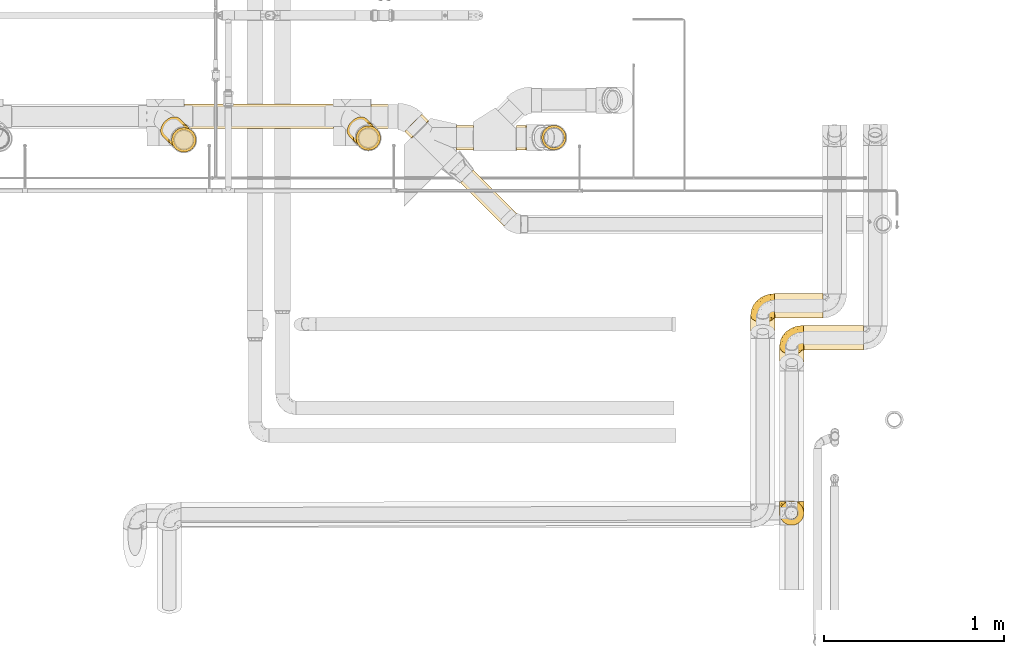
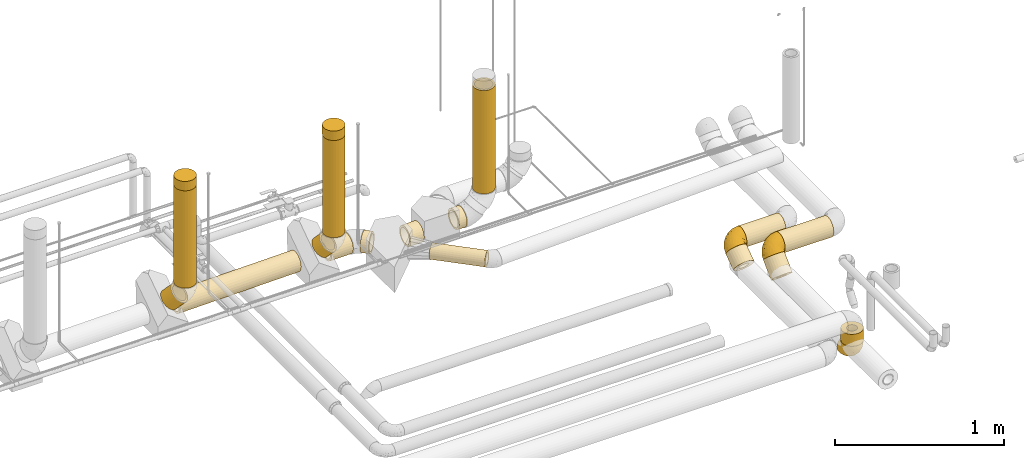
# One storey, part 3 of 156: 21 coverings.
"""IFC2X3 building model written with IfcOpenShell, lengths in millimetres."""

from ifc_helpers import new_model, entity, si_unit, converted_unit, derived_unit, direction, frame, origin_with_axes, origin_2d_with_axis, place, context, subcontext, project, spatial, hollow_circle, extrude, open_shell, surface_model, source, transform, mapped, element, save


model = new_model("IFC2X3")

# Units and contexts
model_context = context("Model", 3, precision=0.01, world=frame((0.0, 4.29681676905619e-09, 0.0)), true_north=direction((4.01073788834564e-13, 1.0)))
plan_context = context("Plan", 3, precision=0.01, world=frame((0.0, 4.29681676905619e-09, 0.0)), true_north=direction((4.01073788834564e-13, 1.0)))
body_context = subcontext(model_context, "Body", "Model", "MODEL_VIEW")
ifc_project = project(units=[converted_unit("PLANEANGLEUNIT", "DEGREE", entity("IfcPositiveLengthMeasure", 0.0174532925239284), si_unit("PLANEANGLEUNIT", "RADIAN"), dimensions=[0, 0, 0, 0, 0, 0, 0]), si_unit("AREAUNIT", "SQUARE_METRE"), si_unit("LENGTHUNIT", "METRE", prefix="MILLI"), si_unit("MASSUNIT", "GRAM", prefix="KILO"), si_unit("POWERUNIT", "WATT"), si_unit("PRESSUREUNIT", "PASCAL", prefix="KILO"), si_unit("FORCEUNIT", "NEWTON", prefix="KILO"), si_unit("ELECTRICVOLTAGEUNIT", "VOLT"), si_unit("ELECTRICCURRENTUNIT", "AMPERE"), si_unit("THERMODYNAMICTEMPERATUREUNIT", "DEGREE_CELSIUS"), si_unit("TIMEUNIT", "SECOND"), si_unit("VOLUMEUNIT", "CUBIC_METRE"), derived_unit("LINEARVELOCITYUNIT", [(si_unit("LENGTHUNIT", "METRE"), 1), (si_unit("TIMEUNIT", "SECOND"), -1)]), derived_unit("VOLUMETRICFLOWRATEUNIT", [(si_unit("VOLUMEUNIT", "CUBIC_METRE"), 1), (si_unit("TIMEUNIT", "SECOND"), -1)]), derived_unit("THERMALTRANSMITTANCEUNIT", [(si_unit("POWERUNIT", "WATT"), 1), (si_unit("THERMODYNAMICTEMPERATUREUNIT", "KELVIN"), -1), (si_unit("AREAUNIT", "SQUARE_METRE"), -1)]), derived_unit("SOUNDPRESSUREUNIT", [(si_unit("PRESSUREUNIT", "PASCAL"), 1)])], contexts=[model_context, plan_context])

# Site, building, storey
site_placement = place(None, frame((0.0, -4.29681676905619e-09, 0.0), z_axis=(0.0, 0.0, 1.0), x_axis=(1.0, 0.0, 0.0)))
site = spatial("IfcSite", under=ifc_project, at=site_placement, CompositionType="ELEMENT")
building_placement = place(site_placement, frame((0.0, 4.29681676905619e-09, 0.0), z_axis=(0.0, 0.0, 1.0), x_axis=(1.0, 0.0, 0.0)))
building = spatial("IfcBuilding", under=site, at=building_placement, Name="mc-building", CompositionType="ELEMENT")
storey_placement = place(building_placement, frame((0.0, 0.0, 205200.0), z_axis=(0.0, 0.0, 1.0), x_axis=(1.0, 0.0, 0.0)))
storey = spatial("IfcBuildingStorey", under=building, at=storey_placement, Name="Nivå D + 1,2 m", CompositionType="ELEMENT", Elevation=205200.0)

# Coverings
shared_shape_1 = source(origin_with_axes(), body_context, "Body", "SweptSolid", [
    extrude(hollow_circle(Radius=68.0, WallThickness=13.0, at=origin_2d_with_axis()), frame((0.0, 0.0, 0.0), z_axis=(1.0, 0.0, 0.0), x_axis=(0.0, 1.0, 0.0)), (0.0, 0.0, 1.0), 149.5),
])
covering_1_placement = place(storey_placement, frame((327525.80353, 462724.75736, 4211.06779), z_axis=(-0.000112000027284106, -0.999976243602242, 0.00689200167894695), x_axis=(0.999861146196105, 2.86378908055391e-06, 0.0166639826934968)))
element("IfcCovering", 1, at=covering_1_placement, inside=storey, Name="BI17T - Cellegummi 13 mm SPV fett", PredefinedType="INSULATION", context=body_context, shape_type="MappedRepresentation", body=[
    mapped(shared_shape_1, transform((0.0, 0.0, 0.0), scale=1.0)),
])
shared_shape_2 = source(origin_with_axes(), body_context, "Body", "SweptSolid", [
    extrude(hollow_circle(Radius=68.0, WallThickness=13.0, at=origin_2d_with_axis()), frame((0.0, 0.0, 0.0), z_axis=(1.0, 0.0, 0.0), x_axis=(0.0, 1.0, 0.0)), (0.0, 0.0, 1.0), 703.8),
])
covering_2_placement = place(storey_placement, frame((326488.40178, 462595.06172, 4427.1936), z_axis=(0.7152152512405, -0.698904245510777, 0.0), x_axis=(1.33368107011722e-05, 1.36480647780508e-05, 0.99999999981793)))
element("IfcCovering", 2, at=covering_2_placement, inside=storey, Name="BI17T - Cellegummi 13 mm SPV fett", PredefinedType="INSULATION", context=body_context, shape_type="MappedRepresentation", body=[
    mapped(shared_shape_2, transform((0.0, 0.0, 0.0), scale=1.0)),
])
shared_shape_3 = source(origin_with_axes(), body_context, "Body", "SweptSolid", [
    extrude(hollow_circle(Radius=68.0, WallThickness=13.0, at=origin_2d_with_axis()), frame((0.0, 0.0, 0.0), z_axis=(1.0, 0.0, 0.0), x_axis=(0.0, 1.0, 0.0)), (0.0, 0.0, 1.0), 702.9),
])
covering_3_placement = place(storey_placement, frame((327510.89898, 462605.08016, 4428.10665999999), z_axis=(0.707054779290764, -0.7071587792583, 0.0), x_axis=(1.35010294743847e-05, 1.34990439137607e-05, 0.999999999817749)))
element("IfcCovering", 3, at=covering_3_placement, inside=storey, Name="BI17T - Cellegummi 13 mm SPV fett", PredefinedType="INSULATION", context=body_context, shape_type="MappedRepresentation", body=[
    mapped(shared_shape_3, transform((0.0, 0.0, 0.0), scale=1.0)),
])
shared_shape_4 = source(origin_with_axes(), body_context, "Body", "SweptSolid", [
    extrude(hollow_circle(Radius=68.0, WallThickness=13.0, at=origin_2d_with_axis()), frame((0.0, 0.0, 0.0), z_axis=(1.0, 0.0, 0.0), x_axis=(0.0, 1.0, 0.0)), (0.0, 0.0, 1.0), 748.0),
])
covering_4_placement = place(storey_placement, frame((328539.54391, 462607.54997, 5130.97500999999), z_axis=(1.0, 0.0, 0.0), x_axis=(0.0, 0.000159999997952, -0.9999999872)))
element("IfcCovering", 4, at=covering_4_placement, inside=storey, Name="BI17T - Cellegummi 13 mm SPV fett", PredefinedType="INSULATION", context=body_context, shape_type="MappedRepresentation", body=[
    mapped(shared_shape_4, transform((0.0, 0.0, 0.0), scale=1.0)),
])
shared_shape_5 = source(origin_with_axes(), body_context, "Body", "SweptSolid", [
    extrude(hollow_circle(Radius=68.0, WallThickness=13.0, at=origin_2d_with_axis()), frame((0.0, 0.0, 0.0), z_axis=(1.0, 0.0, 0.0), x_axis=(0.0, 1.0, 0.0)), (0.0, 0.0, 1.0), 89.7),
])
covering_5_placement = place(storey_placement, frame((326463.04187, 462619.84328, 4341.61603), z_axis=(0.862574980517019, 0.298981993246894, -0.408134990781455), x_axis=(-0.505837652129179, 0.494301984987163, -0.706960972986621)))
element("IfcCovering", 5, at=covering_5_placement, inside=storey, Name="BI17T - Cellegummi 13 mm SPV fett", PredefinedType="INSULATION", context=body_context, shape_type="MappedRepresentation", body=[
    mapped(shared_shape_5, transform((0.0, 0.0, 0.0), scale=1.0)),
])
shared_shape_6 = source(origin_with_axes(), body_context, "Body", "SweptSolid", [
    extrude(hollow_circle(Radius=68.0, WallThickness=13.0, at=origin_2d_with_axis()), frame((0.0, 0.0, 0.0), z_axis=(1.0, 0.0, 0.0), x_axis=(0.0, 1.0, 0.0)), (0.0, 0.0, 1.0), 67.3),
])
covering_6_placement = place(storey_placement, frame((327485.82396, 462630.15887, 4342.52278), z_axis=(0.86591135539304, 0.297985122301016, -0.401749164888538), x_axis=(-0.500103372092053, 0.500176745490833, -0.706908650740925)))
element("IfcCovering", 6, at=covering_6_placement, inside=storey, Name="BI17T - Cellegummi 13 mm SPV fett", PredefinedType="INSULATION", context=body_context, shape_type="MappedRepresentation", body=[
    mapped(shared_shape_6, transform((0.0, 0.0, 0.0), scale=1.0)),
])
shared_shape_7 = source(origin_with_axes(), body_context, "Body", "SweptSolid", [
    extrude(hollow_circle(Radius=68.0, WallThickness=13.0, at=origin_2d_with_axis()), frame((0.0, 0.0, 0.0), z_axis=(1.0, 0.0, 0.0), x_axis=(0.0, 1.0, 0.0)), (0.0, 0.0, 1.0), 828.0),
])
covering_7_placement = place(storey_placement, frame((326491.14472, 462724.75736, 4193.82347999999), z_axis=(-0.0166640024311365, 0.0, 0.999861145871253), x_axis=(0.999861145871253, 0.0, 0.0166640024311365)))
element("IfcCovering", 7, at=covering_7_placement, inside=storey, Name="BI17T - Cellegummi 13 mm SPV fett", PredefinedType="INSULATION", context=body_context, shape_type="MappedRepresentation", body=[
    mapped(shared_shape_7, transform((0.0, 0.0, 0.0), scale=1.0)),
])
shared_shape_8 = source(origin_with_axes(), body_context, "Body", "SweptSolid", [
    extrude(hollow_circle(Radius=50.5, WallThickness=13.0, at=origin_2d_with_axis()), frame((0.0, 0.0, 0.0), z_axis=(1.0, 0.0, 0.0), x_axis=(0.0, 1.0, 0.0)), (0.0, 0.0, 1.0), 341.2),
])
covering_8_placement = place(storey_placement, frame((328057.04639, 462393.09475, 4222.20538), z_axis=(-0.707007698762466, -0.70717169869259, -0.00694999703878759), x_axis=(0.707009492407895, -0.707008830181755, 0.0166160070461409)))
element("IfcCovering", 8, at=covering_8_placement, inside=storey, Name="BI17T - Cellegummi 13 mm SPV fett", PredefinedType="INSULATION", context=body_context, shape_type="MappedRepresentation", body=[
    mapped(shared_shape_8, transform((0.0, 0.0, 0.0), scale=1.0)),
])
shared_shape_9 = source(origin_with_axes(), body_context, "Body", "SweptSolid", [
    extrude(hollow_circle(Radius=68.0, WallThickness=13.0, at=origin_2d_with_axis()), frame((0.0, 0.0, 0.0), z_axis=(1.0, 0.0, 0.0), x_axis=(0.0, 1.0, 0.0)), (0.0, 0.0, 1.0), 54.0),
])
covering_9_placement = place(storey_placement, frame((328332.51057, 462607.66, 4226.35513000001), z_axis=(5.49999762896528e-05, -0.999996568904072, -0.00261899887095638), x_axis=(0.999780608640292, 1.30380445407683e-07, 0.0209459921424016)))
element("IfcCovering", 9, at=covering_9_placement, inside=storey, Name="BI17T - Cellegummi 13 mm SPV fett", PredefinedType="INSULATION", context=body_context, shape_type="MappedRepresentation", body=[
    mapped(shared_shape_9, transform((0.0, 0.0, 0.0), scale=1.0)),
])
shared_shape_10 = source(origin_with_axes(), body_context, "Body", "SweptSolid", [
    extrude(hollow_circle(Radius=68.0, WallThickness=13.0, at=origin_2d_with_axis()), frame((0.0, 0.0, 0.0), z_axis=(1.0, 0.0, 0.0), x_axis=(0.0, 1.0, 0.0)), (0.0, 0.0, 1.0), 51.6),
])
covering_10_placement = place(storey_placement, frame((327760.81329, 462689.32797, 4215.22920999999), z_axis=(-0.707007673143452, -0.707171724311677, -0.00694999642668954), x_axis=(0.707004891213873, -0.707006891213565, 0.0168919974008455)))
element("IfcCovering", 10, at=covering_10_placement, inside=storey, Name="BI17T - Cellegummi 13 mm SPV fett", PredefinedType="INSULATION", context=body_context, shape_type="MappedRepresentation", body=[
    mapped(shared_shape_10, transform((0.0, 0.0, 0.0), scale=1.0)),
])
shared_shape_11 = source(origin_with_axes(), body_context, "Body", "SweptSolid", [
    extrude(hollow_circle(Radius=68.0, WallThickness=13.0, at=origin_2d_with_axis()), frame((0.0, 0.0, 0.0), z_axis=(1.0, 0.0, 0.0), x_axis=(0.0, 1.0, 0.0)), (0.0, 0.0, 1.0), 92.9),
])
covering_11_placement = place(storey_placement, frame((328000.26252, 462607.66, 4219.79246999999), z_axis=(4.39999810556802e-05, -0.99999656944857, -0.00261899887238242), x_axis=(0.999861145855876, 3.50866696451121e-07, 0.0166640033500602)))
element("IfcCovering", 11, at=covering_11_placement, inside=storey, Name="BI17T - Cellegummi 13 mm SPV fett", PredefinedType="INSULATION", context=body_context, shape_type="MappedRepresentation", body=[
    mapped(shared_shape_11, transform((0.0, 0.0, 0.0), scale=1.0)),
])
shared_shape_12 = source(origin_with_axes(), body_context, "Body", "SurfaceModel", [
    surface_model("IfcShellBasedSurfaceModel", [(68.0, 34.0, 58.88973), (0.0, 34.0, 58.88973), (0.0, 17.5997, 65.68295), (68.0, 17.5997, 65.68295), (0.0, 0.0, 68.0), (68.0, 48.08326, 48.08326), (68.0, 0.0, 68.0), (0.0, 48.08326, 48.08326), (68.0, -34.0, 58.88973), (0.0, -34.0, 58.88973), (0.0, -48.08326, 48.08326), (0.0, -17.5997, 65.68295), (68.0, -17.5997, 65.68295), (68.0, -48.08326, 48.08326), (68.0, -58.88973, 34.0), (0.0, -58.88973, 34.0), (0.0, -65.68295, 17.5997), (68.0, -65.68295, 17.5997), (0.0, -68.0, 0.0), (68.0, -68.0, 0.0), (68.0, -65.68295, -17.5997), (0.0, -65.68295, -17.5997), (0.0, -58.88973, -34.0), (68.0, -58.88973, -34.0), (0.0, -48.08326, -48.08326), (68.0, -48.08326, -48.08326), (68.0, -34.0, -58.88973), (0.0, -34.0, -58.88973), (0.0, -17.5997, -65.68295), (68.0, -17.5997, -65.68295), (0.0, 0.0, -68.0), (68.0, 0.0, -68.0), (68.0, 17.5997, -65.68295), (0.0, 17.5997, -65.68295), (0.0, 34.0, -58.88973), (68.0, 34.0, -58.88973), (0.0, 48.08326, -48.08326), (68.0, 48.08326, -48.08326), (68.0, 58.88973, -34.0), (0.0, 58.88973, -34.0), (0.0, 65.68295, -17.5997), (68.0, 65.68295, -17.5997), (0.0, 68.0, 0.0), (68.0, 68.0, 0.0), (68.0, 65.68295, 17.5997), (68.0, 58.88973, 34.0), (0.0, 58.88973, 34.0), (0.0, 65.68295, 17.5997)], [open_shell([[[0, 1, 2]], [[3, 2, 4]], [[5, 1, 0]], [[0, 2, 3]], [[4, 6, 3]], [[1, 5, 7]], [[8, 9, 10]], [[6, 11, 12]], [[11, 6, 4]], [[12, 11, 9]], [[9, 8, 12]], [[10, 13, 8]], [[14, 15, 16]], [[17, 16, 18]], [[13, 15, 14]], [[14, 16, 17]], [[18, 19, 17]], [[15, 13, 10]], [[20, 21, 22]], [[23, 22, 24]], [[18, 21, 19]], [[19, 21, 20]], [[22, 23, 20]], [[24, 25, 23]], [[26, 27, 28]], [[29, 28, 30]], [[25, 27, 26]], [[26, 28, 29]], [[30, 31, 29]], [[27, 25, 24]], [[32, 33, 34]], [[35, 34, 36]], [[30, 33, 31]], [[31, 33, 32]], [[34, 35, 32]], [[36, 37, 35]], [[38, 39, 40]], [[41, 40, 42]], [[37, 39, 38]], [[38, 40, 41]], [[42, 43, 41]], [[39, 37, 36]], [[38, 35, 37]], [[38, 32, 35]], [[41, 43, 32]], [[41, 32, 38]], [[32, 43, 31]], [[31, 44, 29]], [[29, 44, 26]], [[5, 25, 26]], [[25, 0, 23]], [[23, 0, 20]], [[44, 31, 43]], [[45, 5, 26]], [[25, 5, 0]], [[3, 6, 20]], [[3, 20, 0]], [[6, 19, 20]], [[17, 12, 14]], [[17, 19, 6]], [[14, 8, 13]], [[8, 14, 12]], [[6, 12, 17]], [[45, 26, 44]], [[21, 18, 4]], [[4, 2, 21]], [[7, 22, 1]], [[1, 21, 2]], [[7, 46, 27]], [[9, 15, 10]], [[15, 9, 11]], [[11, 16, 15]], [[11, 4, 16]], [[4, 18, 16]], [[46, 47, 27]], [[33, 42, 40]], [[33, 40, 39]], [[34, 33, 39]], [[34, 39, 36]], [[42, 33, 30]], [[24, 22, 7]], [[21, 1, 22]], [[28, 27, 47]], [[24, 7, 27]], [[42, 30, 28]], [[28, 47, 42]], [[44, 47, 46]], [[45, 46, 7]], [[42, 47, 43]], [[43, 47, 44]], [[46, 45, 44]], [[7, 5, 45]]])]),
])
for number, where, z_axis, x_axis in (
    (12, (326488.40933, 462595.06945, 5130.97503), (0.99999999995, -2.58493941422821e-26, -9.9999999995e-06), (9.999999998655e-06, 1.29999999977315e-05, 0.9999999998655)),
    (13, (327510.90718, 462605.08836, 5130.97503999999), (0.99999999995, -2.58493941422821e-26, -9.9999999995e-06), (9.999999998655e-06, 1.29999999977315e-05, 0.9999999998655)),
):
    element("IfcCovering", number, at=place(storey_placement, frame(where, z_axis=z_axis, x_axis=x_axis)), inside=storey, Name="BI17T - Cellegummi 13 mm SPV fett", PredefinedType="INSULATION", context=body_context, shape_type="MappedRepresentation", body=[
        mapped(shared_shape_12, transform((0.0, 0.0, 0.0), scale=1.0)),
    ])
shared_shape_13 = source(origin_with_axes(), body_context, "Body", "SweptSolid", [
    extrude(hollow_circle(Radius=67.5, WallThickness=35.0, at=origin_2d_with_axis()), frame((0.0, 0.0, 0.0), z_axis=(1.0, 0.0, 0.0), x_axis=(0.0, 1.0, 0.0)), (0.0, 0.0, 1.0), 267.8),
])
covering_12_placement = place(storey_placement, frame((329762.42979, 461675.28932, 4163.33854999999), z_axis=(0.0, 0.0, 1.0), x_axis=(1.0, 0.0, 0.0)))
element("IfcCovering", 14, at=covering_12_placement, inside=storey, Name="BI10T - Cellegummi 18-32 mm kalde rør", PredefinedType="INSULATION", context=body_context, shape_type="MappedRepresentation", body=[
    mapped(shared_shape_13, transform((0.0, 0.0, 0.0), scale=1.0)),
])
shared_shape_14 = source(origin_with_axes(), body_context, "Body", "SweptSolid", [
    extrude(hollow_circle(Radius=67.5, WallThickness=35.0, at=origin_2d_with_axis()), frame((0.0, 0.0, 0.0), z_axis=(1.0, 0.0, 0.0), x_axis=(0.0, 1.0, 0.0)), (0.0, 0.0, 1.0), 109.7),
])
covering_13_placement = place(storey_placement, frame((329697.42979, 461622.08558, 4125.99739999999), z_axis=(0.0, -0.57447915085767, 0.818519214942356), x_axis=(0.0, -0.818519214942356, -0.57447915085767)))
element("IfcCovering", 15, at=covering_13_placement, inside=storey, Name="BI10T - Cellegummi 18-32 mm kalde rør", PredefinedType="INSULATION", context=body_context, shape_type="MappedRepresentation", body=[
    mapped(shared_shape_14, transform((0.0, 0.0, 0.0), scale=1.0)),
])
shared_shape_15 = source(origin_with_axes(), body_context, "Body", "SurfaceModel", [
    surface_model("IfcShellBasedSurfaceModel", [(13.1732, 65.0, 66.20209), (25.83774, 65.0, 62.35913), (37.50754, 65.0, 56.11983), (0.0, 65.0, 67.5), (62.36357, 65.0, 25.82703), (66.2036, 65.0, 13.1656), (47.7349, 65.0, 47.72452), (56.12755, 65.0, 37.49598), (-14.37401, 65.0, 65.95178), (-64.81475, 65.0, -18.84935), (-51.08854, 65.0, 44.11588), (-28.09151, 65.0, 61.37685), (-40.51981, 65.0, 53.98514), (-64.81475, 65.0, 18.84935), (-59.31267, 65.0, 32.22201), (66.20209, 65.0, -13.1732), (67.5, 65.0, 0.0), (56.11983, 65.0, -37.50754), (62.35913, 65.0, -25.83774), (47.72452, 65.0, -47.7349), (37.49598, 65.0, -56.12755), (25.82703, 65.0, -62.36357), (-40.52239, 65.0, -53.98321), (-51.09064, 65.0, -44.11345), (-59.31419, 65.0, -32.21921), (-28.09443, 65.0, -61.37551), (0.0, 65.0, -67.5), (-14.37712, 65.0, -65.95111), (13.1656, 65.0, -66.2036), (-65.0, 64.81475, -18.84935), (-65.0, 57.87557, -34.73714), (-65.0, 47.11836, -48.33333), (-65.0, 33.25277, -58.74099), (-65.0, 17.19351, -65.27353), (-65.0, 64.81475, 18.84935), (-65.0, -33.75, 58.45672), (-65.0, 57.87557, 34.73714), (-65.0, 33.25277, 58.74099), (-65.0, 47.11836, 48.33333), (-65.0, 0.0, 67.5), (-65.0, 17.19351, 65.27353), (-65.0, 0.0, -67.5), (-65.0, -17.47029, -65.19999), (-65.0, -67.5, 0.0), (-65.0, -58.45672, -33.75), (-65.0, -33.75, -58.45672), (-65.0, -47.72971, -47.72971), (-65.0, -65.19999, -17.47029), (-65.0, -47.72971, 47.72971), (-65.0, -17.47029, 65.19999), (-65.0, -58.45672, 33.75), (-65.0, -65.19999, 17.47029), (-64.86901, 64.86901, 18.84935), (-64.86901, 64.86901, -18.84935), (-62.35297, 53.22925, -41.88204), (-63.78423, 60.63473, -29.99667), (-59.45918, 54.28289, -41.88204), (-51.69965, 42.79725, -55.00915), (-58.92632, 41.28656, -53.98417), (-64.97489, 64.82515, -18.84935), (-60.99561, 60.00362, -33.50592), (-62.83434, 60.76841, -30.4404), (-64.90176, 64.85544, -18.84935), (-50.86682, 28.04405, -62.52499), (-57.92381, 24.04777, -63.29908), (-50.90167, 14.37918, -66.34141), (-37.08653, 31.39033, -64.04773), (-29.58182, 11.99295, -67.5), (-40.36853, 19.80167, -66.13096), (-55.46376, 1.89688, -67.5), (-54.1914, 53.04137, -46.55035), (-23.48796, 51.53459, -64.03169), (-35.44219, 58.51372, -57.87452), (-1.89688, 55.46376, -67.5), (-19.03806, 19.03806, -67.5), (-28.84083, 40.49015, -64.04563), (-45.93357, 58.13982, -50.54557), (-64.83555, 64.94978, -18.84935), (-43.55475, 44.96694, -57.31565), (-4.94783, 40.12558, -67.5), (-64.85228, 64.9094, -18.84935), (-55.95504, 62.1673, -38.38718), (-59.35288, 60.73167, -34.6609), (-37.17686, 51.38247, -58.29815), (-49.05026, 54.8073, -49.33215), (-11.99295, 29.58182, -67.5), (-64.9345, 64.84188, -18.84935), (-40.12558, 4.94783, -67.5), (-52.74634, 2.4374, -67.5), (-42.51157, -9.52295, -66.2671), (62.98517, 30.70648, 0.0), (60.34861, 32.11006, -19.59988), (7.28209, 26.69247, -65.37446), (17.51571, 46.37925, -64.59456), (25.45053, 30.47784, -59.53215), (-9.86721, -24.12514, -54.51842), (-12.17277, -41.13061, -41.0914), (-38.26551, -37.66767, -53.55135), (-32.07934, -19.65533, -62.36187), (-9.01246, -1.18966, -63.9192), (38.39188, 36.73619, -52.6938), (30.43395, 48.7077, -59.53215), (-49.4847, -21.90434, -63.359), (28.69165, -28.69165, 0.0), (38.50326, -14.42084, -16.45739), (49.74837, -1.25, 0.0), (-26.34544, -2.34013, -66.30486), (-28.9987, -57.16772, -25.83113), (-40.01142, -50.88785, -41.0914), (-40.23864, -63.93244, -12.73067), (13.27406, -37.00874, -22.67012), (18.34903, -3.39087, -52.18245), (35.48999, 13.46262, -47.52341), (28.03747, -10.89182, -39.04005), (-2.47392, 52.56279, -67.5), (13.31742, 11.06376, -60.42055), (48.33699, 35.26235, -42.82742), (1.25, -49.74837, 0.0), (55.58243, 33.90777, -31.82524), (47.1962, 10.97433, -31.82591), (10.54857, -30.74404, -36.21718), (1.99991, -27.22627, -46.43081), (-14.75381, -56.30503, -12.67322), (-7.01775, -49.35414, -23.6696), (51.32465, 7.6704, -19.29111), (-30.70648, -62.98517, 0.0), (0.244, 12.31909, -64.81242), (3.6701, -5.45972, -58.66435), (36.98055, -9.37937, -28.42458), (48.52829, 33.96524, 42.18547), (51.34601, 20.59434, 31.81466), (57.75615, 44.0433, 31.81466), (-28.34115, -60.77084, 14.13005), (-16.26073, -52.66703, 25.83113), (-42.88385, -60.42696, 25.83113), (37.5083, -13.65738, 20.81995), (22.2387, 22.99208, 59.52614), (16.82988, 43.52884, 64.59175), (5.27267, 25.31169, 65.6474), (35.12366, 13.6505, 47.93511), (15.62004, -0.76277, 55.06473), (25.58961, -9.33201, 42.81638), (-34.31666, -49.51181, 41.0914), (-2.14331, -36.32511, 40.18049), (-17.725, -29.97609, 53.55135), (-5.8464, -51.68872, 14.94009), (14.49533, -38.60032, 15.96281), (39.0394, -2.37839, 32.87761), (-42.65822, -9.03699, 66.36346), (-39.32482, -22.1268, 62.36187), (-52.74634, 2.4374, 67.5), (18.51015, -28.28032, 30.53115), (-42.63776, -38.70783, 53.55135), (52.44199, 9.85636, 19.0918), (61.41574, 36.47263, 19.59063), (39.29703, 37.63428, 52.17338), (28.75854, 40.82432, 59.5265), (-0.80851, -10.86712, 58.08848), (-25.06949, -14.2506, 63.18685), (-6.08758, 12.63645, 66.07007), (-29.58182, 11.99295, 67.5), (-27.583, -2.4399, 66.40218), (-40.12558, 4.94783, 67.5), (-2.47392, 52.56279, 67.5), (-4.94783, 40.12558, 67.5), (8.13231, 9.85971, 62.04196), (4.6081, -20.53967, 50.05704), (-11.99295, 29.58182, 67.5), (-19.03806, 19.03806, 67.5), (-12.13012, -4.71198, 63.64217), (-55.46376, 1.89688, 67.5), (-51.31051, 50.10809, 50.51452), (-58.83063, 56.06256, 40.31262), (-53.07544, 43.62194, 53.98417), (-61.39668, 53.48595, 41.88204), (-59.33203, 41.18634, 53.98417), (-38.67692, 30.21324, 64.02579), (-40.80843, 18.77841, 66.26938), (-53.18292, 27.23963, 62.52499), (-62.39323, 61.71268, 29.30964), (-62.71992, 60.35042, 31.2673), (-24.35909, 37.3903, 65.60842), (-55.876, 57.84764, 41.27918), (-48.33586, 52.86998, 50.85179), (-52.15697, 58.33043, 44.75633), (-50.72259, 13.73618, 66.46323), (-63.72097, 60.14876, 30.95628), (-23.37818, 51.86775, 64.03271), (-1.89688, 55.46376, 67.5), (-38.9734, 49.10623, 58.01476), (-36.16929, 55.0609, 58.01476), (-61.49541, 62.05581, 30.08872), (-64.85228, 64.9094, 18.84935), (-46.94651, 59.30387, 49.33434), (-64.83555, 64.94978, 18.84935), (-57.76525, 62.98421, 35.37213), (-59.8704, 62.17048, 32.53464), (-45.47025, 40.87928, 58.33251), (-64.9094, 64.85228, 18.84935), (-64.94978, 64.83555, 18.84935)], [open_shell([[[0, 1, 2]], [[3, 0, 2]], [[4, 5, 6]], [[6, 7, 4]], [[8, 2, 9]], [[6, 9, 2]], [[8, 10, 11]], [[8, 3, 2]], [[12, 11, 10]], [[9, 13, 14]], [[14, 10, 9]], [[10, 8, 9]], [[9, 6, 5]], [[15, 9, 16]], [[17, 15, 18]], [[15, 19, 9]], [[20, 21, 19]], [[19, 15, 17]], [[21, 9, 19]], [[22, 23, 9]], [[24, 9, 23]], [[22, 9, 25]], [[26, 27, 9]], [[25, 9, 27]], [[9, 28, 26]], [[9, 21, 28]], [[16, 9, 5]], [[29, 30, 31]], [[31, 32, 33]], [[29, 31, 34]], [[31, 35, 36]], [[36, 37, 38]], [[36, 34, 31]], [[37, 39, 40]], [[35, 39, 37]], [[37, 36, 35]], [[31, 33, 41]], [[42, 43, 31]], [[44, 42, 45]], [[42, 44, 43]], [[44, 45, 46]], [[47, 43, 44]], [[35, 43, 48]], [[49, 39, 35]], [[50, 43, 51]], [[43, 50, 48]], [[43, 35, 31]], [[42, 31, 41]], [[29, 34, 52]], [[53, 29, 52]], [[13, 9, 52]], [[53, 52, 9]], [[54, 55, 56]], [[57, 58, 56]], [[30, 29, 59]], [[54, 58, 31]], [[60, 61, 62]], [[58, 63, 64]], [[33, 64, 65]], [[66, 67, 68]], [[65, 64, 63]], [[33, 65, 69]], [[56, 70, 57]], [[25, 71, 72]], [[30, 54, 31]], [[27, 26, 73]], [[74, 66, 75]], [[76, 22, 72]], [[22, 76, 23]], [[58, 32, 31]], [[58, 57, 63]], [[77, 9, 24]], [[60, 70, 56]], [[66, 78, 75]], [[79, 71, 73]], [[80, 81, 82]], [[24, 81, 77]], [[27, 73, 71]], [[27, 71, 25]], [[65, 63, 68]], [[71, 83, 72]], [[24, 23, 81]], [[82, 84, 70]], [[57, 66, 63]], [[78, 57, 70]], [[83, 78, 84]], [[59, 55, 30]], [[58, 54, 56]], [[70, 60, 82]], [[78, 70, 84]], [[80, 77, 81]], [[81, 84, 82]], [[75, 83, 71]], [[57, 78, 66]], [[75, 79, 85]], [[55, 59, 86]], [[69, 65, 87]], [[69, 41, 33]], [[68, 63, 66]], [[82, 53, 80]], [[87, 65, 68]], [[61, 56, 55]], [[53, 82, 60]], [[78, 83, 75]], [[76, 72, 83]], [[83, 84, 76]], [[25, 72, 22]], [[84, 81, 76]], [[23, 76, 81]], [[55, 86, 61]], [[30, 55, 54]], [[62, 53, 60]], [[60, 56, 61]], [[61, 86, 62]], [[33, 32, 64]], [[58, 64, 32]], [[67, 66, 74]], [[67, 87, 68]], [[79, 75, 71]], [[85, 74, 75]], [[88, 89, 42]], [[88, 87, 89]], [[15, 90, 91]], [[92, 93, 94]], [[95, 96, 97]], [[95, 98, 99]], [[100, 94, 101]], [[89, 102, 42]], [[103, 104, 105]], [[21, 93, 28]], [[74, 99, 106]], [[18, 15, 91]], [[107, 44, 108]], [[47, 109, 43]], [[104, 103, 110]], [[44, 107, 47]], [[44, 46, 108]], [[45, 97, 46]], [[102, 97, 45]], [[111, 112, 113]], [[26, 28, 114]], [[94, 112, 115]], [[19, 17, 116]], [[100, 19, 116]], [[103, 117, 110]], [[118, 91, 119]], [[101, 93, 21]], [[28, 93, 114]], [[120, 96, 121]], [[122, 109, 107]], [[110, 117, 122]], [[123, 96, 120]], [[105, 104, 124]], [[122, 117, 125]], [[100, 112, 94]], [[124, 90, 105]], [[18, 118, 17]], [[126, 127, 99]], [[15, 16, 90]], [[116, 118, 119]], [[111, 115, 112]], [[92, 79, 93]], [[95, 97, 98]], [[20, 101, 21]], [[108, 97, 96]], [[126, 85, 92]], [[110, 120, 128]], [[91, 124, 119]], [[106, 98, 89]], [[121, 113, 120]], [[92, 115, 126]], [[115, 92, 94]], [[20, 19, 100]], [[93, 101, 94]], [[100, 101, 20]], [[100, 116, 112]], [[116, 119, 112]], [[113, 112, 119]], [[128, 113, 119]], [[113, 128, 120]], [[97, 108, 46]], [[107, 108, 96]], [[42, 41, 88]], [[106, 89, 87]], [[89, 98, 102]], [[106, 87, 67]], [[98, 106, 99]], [[97, 102, 98]], [[45, 42, 102]], [[127, 115, 111]], [[115, 127, 126]], [[109, 122, 125]], [[123, 122, 107]], [[43, 109, 125]], [[107, 109, 47]], [[121, 127, 111]], [[74, 106, 67]], [[95, 99, 127]], [[99, 74, 126]], [[124, 91, 90]], [[96, 123, 107]], [[110, 122, 123]], [[17, 118, 116]], [[18, 91, 118]], [[93, 79, 114]], [[85, 126, 74]], [[85, 79, 92]], [[128, 124, 104]], [[124, 128, 119]], [[110, 128, 104]], [[123, 120, 110]], [[121, 96, 95]], [[127, 121, 95]], [[113, 121, 111]], [[129, 130, 131]], [[43, 125, 132]], [[132, 133, 134]], [[105, 135, 103]], [[136, 137, 138]], [[139, 140, 141]], [[142, 143, 144]], [[145, 146, 133]], [[141, 147, 139]], [[117, 103, 146]], [[148, 49, 149]], [[49, 148, 150]], [[151, 146, 135]], [[152, 149, 35]], [[35, 48, 152]], [[134, 50, 51]], [[139, 147, 130]], [[50, 134, 142]], [[35, 149, 49]], [[103, 135, 146]], [[130, 153, 154]], [[152, 142, 144]], [[129, 6, 155]], [[147, 135, 153]], [[5, 4, 154]], [[6, 2, 155]], [[137, 1, 0]], [[154, 4, 131]], [[16, 5, 90]], [[1, 156, 2]], [[157, 158, 144]], [[50, 142, 48]], [[159, 160, 161]], [[137, 136, 156]], [[162, 148, 161]], [[139, 130, 129]], [[0, 163, 137]], [[153, 90, 154]], [[138, 137, 164]], [[156, 136, 155]], [[90, 5, 154]], [[147, 153, 130]], [[140, 136, 165]], [[7, 131, 4]], [[143, 142, 133]], [[144, 143, 166]], [[151, 141, 143]], [[145, 133, 132]], [[151, 133, 146]], [[166, 141, 140]], [[7, 6, 129]], [[154, 131, 130]], [[129, 131, 7]], [[129, 155, 139]], [[155, 136, 139]], [[140, 139, 136]], [[165, 136, 138]], [[157, 144, 166]], [[159, 167, 168]], [[138, 159, 165]], [[142, 152, 48]], [[149, 152, 144]], [[150, 148, 162]], [[150, 39, 49]], [[161, 158, 169]], [[158, 148, 149]], [[161, 169, 159]], [[135, 105, 153]], [[160, 162, 161]], [[90, 153, 105]], [[151, 135, 147]], [[133, 151, 143]], [[148, 158, 161]], [[144, 158, 149]], [[51, 43, 132]], [[142, 134, 133]], [[51, 132, 134]], [[145, 125, 117]], [[125, 145, 132]], [[117, 146, 145]], [[167, 159, 138]], [[157, 165, 169]], [[159, 168, 160]], [[169, 165, 159]], [[141, 166, 143]], [[157, 166, 140]], [[165, 157, 140]], [[157, 169, 158]], [[2, 156, 155]], [[1, 137, 156]], [[163, 0, 3]], [[163, 164, 137]], [[151, 147, 141]], [[138, 164, 167]], [[40, 39, 170]], [[171, 172, 173]], [[173, 174, 175]], [[175, 38, 37]], [[176, 177, 160]], [[176, 173, 178]], [[172, 179, 180]], [[181, 176, 168]], [[175, 37, 178]], [[182, 183, 184]], [[172, 174, 173]], [[174, 36, 38]], [[178, 185, 177]], [[186, 174, 180]], [[187, 188, 8]], [[189, 184, 183]], [[11, 12, 190]], [[52, 191, 192]], [[181, 187, 189]], [[190, 12, 193]], [[14, 13, 194]], [[187, 181, 164]], [[37, 40, 178]], [[195, 10, 14]], [[8, 188, 3]], [[193, 12, 10]], [[171, 182, 172]], [[189, 187, 190]], [[191, 182, 196]], [[11, 187, 8]], [[185, 170, 162]], [[34, 36, 186]], [[189, 183, 197]], [[173, 175, 178]], [[164, 188, 187]], [[174, 38, 175]], [[181, 189, 197]], [[181, 168, 167]], [[52, 179, 191]], [[179, 182, 191]], [[177, 185, 162]], [[170, 185, 40]], [[40, 185, 178]], [[160, 168, 176]], [[178, 177, 176]], [[177, 162, 160]], [[197, 171, 173]], [[183, 182, 171]], [[173, 176, 197]], [[197, 176, 181]], [[197, 183, 171]], [[184, 189, 193]], [[195, 184, 193]], [[196, 194, 192]], [[10, 195, 193]], [[14, 194, 195]], [[182, 184, 196]], [[184, 195, 196]], [[194, 196, 195]], [[192, 191, 196]], [[179, 172, 182]], [[52, 198, 179]], [[199, 186, 180]], [[180, 179, 198]], [[199, 180, 198]], [[174, 172, 180]], [[34, 186, 199]], [[36, 174, 186]], [[190, 187, 11]], [[193, 189, 190]], [[164, 181, 167]]])]),
])
for number, where, z_axis, x_axis in (
    (16, (329697.42979, 461675.28932, 4163.33854999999), (0.0, -0.57447915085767, 0.818519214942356), (-1.0, 0.0, 0.0)),
    (17, (329857.42979, 460526.64514, 4015.75618999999), (-1.0, 0.0, 0.0), (0.0, -1.0, 0.0)),
    (18, (329857.42979, 461498.85076, 4172.95997999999), (0.0, 0.707106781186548, -0.707106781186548), (0.0, 0.707106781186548, 0.707106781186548)),
):
    element("IfcCovering", number, at=place(storey_placement, frame(where, z_axis=z_axis, x_axis=x_axis)), inside=storey, Name="BI10T - Cellegummi 18-32 mm kalde rør", PredefinedType="INSULATION", context=body_context, shape_type="MappedRepresentation", body=[
        mapped(shared_shape_15, transform((0.0, 0.0, 0.0), scale=1.0)),
    ])
shared_shape_16 = source(origin_with_axes(), body_context, "Body", "SweptSolid", [
    extrude(hollow_circle(Radius=67.5, WallThickness=35.0, at=origin_2d_with_axis()), frame((0.0, 0.0, 0.0), z_axis=(1.0, 0.0, 0.0), x_axis=(0.0, 1.0, 0.0)), (0.0, 0.0, 1.0), 130.4),
])
covering_14_placement = place(storey_placement, frame((329857.42979, 461360.68503, 4034.79425000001), z_axis=(0.0, -0.707106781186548, 0.707106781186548), x_axis=(0.0, 0.707106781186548, 0.707106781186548)))
element("IfcCovering", 19, at=covering_14_placement, inside=storey, Name="BI10T - Cellegummi 18-32 mm kalde rør", PredefinedType="INSULATION", context=body_context, shape_type="MappedRepresentation", body=[
    mapped(shared_shape_16, transform((0.0, 0.0, 0.0), scale=1.0)),
])
shared_shape_17 = source(origin_with_axes(), body_context, "Body", "SweptSolid", [
    extrude(hollow_circle(Radius=67.5, WallThickness=35.0, at=origin_2d_with_axis()), frame((0.0, 0.0, 0.0), z_axis=(1.0, 0.0, 0.0), x_axis=(0.0, 1.0, 0.0)), (0.0, 0.0, 1.0), 332.8),
])
covering_15_placement = place(storey_placement, frame((329922.42979, 461498.85076, 4172.95997999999), z_axis=(0.0, 0.0, 1.0), x_axis=(1.0, 0.0, 0.0)))
element("IfcCovering", 20, at=covering_15_placement, inside=storey, Name="BI10T - Cellegummi 18-32 mm kalde rør", PredefinedType="INSULATION", context=body_context, shape_type="MappedRepresentation", body=[
    mapped(shared_shape_17, transform((0.0, 0.0, 0.0), scale=1.0)),
])
shared_shape_18 = source(origin_with_axes(), body_context, "Body", "SweptSolid", [
    extrude(hollow_circle(Radius=67.5, WallThickness=35.0, at=origin_2d_with_axis()), frame((0.0, 0.0, 0.0), z_axis=(1.0, 0.0, 0.0), x_axis=(0.0, 1.0, 0.0)), (0.0, 0.0, 1.0), 86.8),
])
covering_16_placement = place(storey_placement, frame((329857.42979, 460526.64514, 4080.75618999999), z_axis=(-1.0, 0.0, 0.0), x_axis=(0.0, 0.0, 1.0)))
element("IfcCovering", 21, at=covering_16_placement, inside=storey, Name="BI10T - Cellegummi 18-32 mm kalde rør", PredefinedType="INSULATION", context=body_context, shape_type="MappedRepresentation", body=[
    mapped(shared_shape_18, transform((0.0, 0.0, 0.0), scale=1.0)),
])

save(model, "model.ifc")
